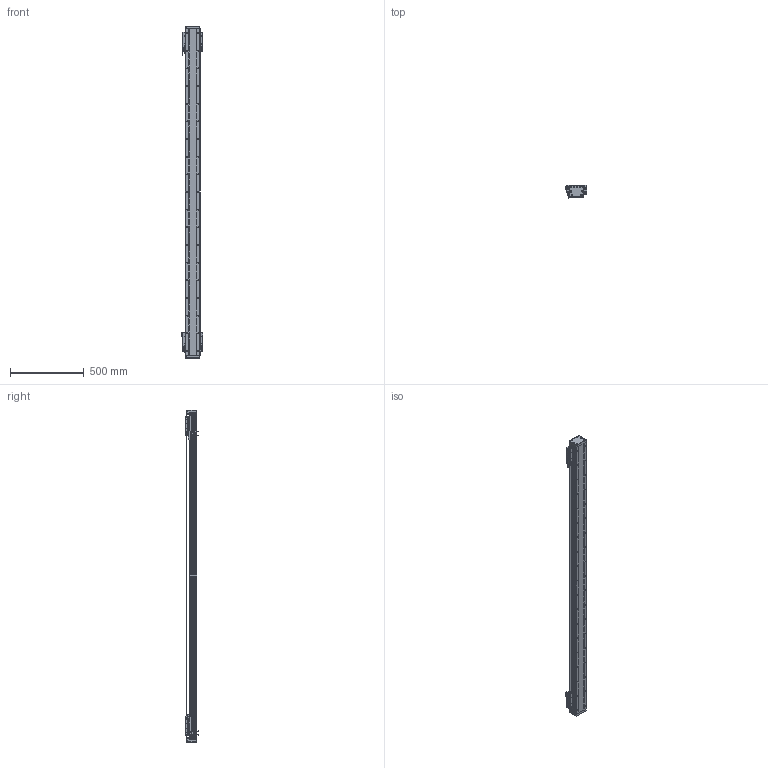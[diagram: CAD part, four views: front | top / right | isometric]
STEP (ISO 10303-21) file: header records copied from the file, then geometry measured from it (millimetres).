
FILE_DESCRIPTION (( 'STEP AP203' ), '1' );
FILE_NAME ('DA-B95-2-B15-T1880-C010-0.2 直线电机.STEP', '2023-05-06T06:34:36', ( '微软用户' ), ( '微软中国' ), 'SwSTEP 2.0', 'SolidWorks 2019', '' );
FILE_SCHEMA (( 'CONFIG_CONTROL_DESIGN' ));
Length unit declared in the file: millimetre
Products named in the file (34): 66245-BU95-V 幗紩賑怢; 复件 DA95-B15 钢带盖板^DA-A95-B15-T-C010-0.2-N 直线电机; 葩璃 DA95-B15-DP-A-00 菜えA^66245-BU95-V 幗紩賑怢; 复件 DKW-HXJ-JY-00 缓冲橡胶^DA-A95-B15-T-C010-0.2-N 直线电机; 复件 纯铜油杯 6x6mm^66245-BU95-V 滚珠滑台; DA95-HXJ-00 缓冲橡胶^DA-A95-B15-T-C010-0.2-N 直线电机; 葩璃 DA95-GT-T-00^IU-BU95-L 菁釱絳寢_DA95; DA-B95-2-B15-T1880-C010-0.2 眻盄萇儂; IU-BU95-L-00 菁釱_L2220; 复件 DA95-MFP-01 密封片^66245-BU95-V 滚珠滑台; IU-BU95-L 菁釱絳寢; LMDK-2-R001-V5-L02-C1-F00，0.2M 读数头^DA-A95-B15-T-C010-0.2-N 直线电机_DMA-010-0.2; DA-A95-GYP-00 光电感应片^DA-A95-B15-T-C010-0.2-N 直线电机; 复件 DA95-HK-GT-00 滑块钢轨^66245-BU95-V-00 一体化滑动台板; 复件 DA95-B15-YB-A-00 压板A^66245-BU95-V 滚珠滑台; 复件 复件 18252-0001-003-00 钢带拉块^DA-A95-B15-T-C010-0.2-N 直线电机; 复件 DKW-KGZ-ZJ-00 中间光电开关支架^DA-A95-B15-T-C010-0.2-N 直线电机; 复件 复件 18252-0001-002-00 钢带垫块^DA-A95-B15-T-C010-0.2-N 直线电机; PM-T45 光电开关^DA-A95-B15-T-C010-0.2-N 直线电机; 66245-BU95-V-00 珨极趙賑雄怢啣; 复件 DA95-DK-00 挡块^66245-BU95-V 滚珠滑台; 复件 六角薄螺母 M3^DA-A95-B15-T-C010-0.2-N 直线电机_GB_FASTENER_NUT_STNAB M3-C; B15 XD-U-02L ｴﾅﾕ､ｳﾟ^DA-A95-B15-T-C010-0.2-N ﾖｱﾏﾟｵ扈銈XD-U-02L; 葩璃 PM-Y45^DA-A95-B15-T-C010-0.2-N 眻盄萇儂; 复件 DA95-DB-00  挡板^66245-BU95-V 滚珠滑台; 复件 复件 18252-0001-004-00 钢带端盖^DA-A95-B15-T-C010-0.2-N 直线电机; 葩璃 DA95-B15-DP--B-00 菜えB^66245-BU95-V 幗紩賑怢; 复件 DKW-GYP-ZJ-00 中间光电感应片^DA-A95-B15-T-C010-0.2-N 直线电机; 葩璃 BKM015-W060-C1-TP-DA-0.2^DA-A95-B15-T-C010-0.2-N 眻盄萇儂; 葩璃 BKMA01-W060-TRL^DA-A95-B15-T-C010-0.2-N 眻盄萇儂; 复件 66245-BU95-HT-V-01 滑动台板^66245-BU95-V-00 一体化滑动台板; 复件 DA95-B15-YB-B-00 压板B^66245-BU95-V 滚珠滑台
Assembly tree (80 placements, depth 4):
  DA-B95-2-B15-T1880-C010-0.2 眻盄萇儂
    IU-BU95-L 菁釱絳寢
      IU-BU95-L-00 菁釱_L2220
      葩璃 DA95-GT-T-00^IU-BU95-L 菁釱絳寢_DA95  x2
    66245-BU95-V 幗紩賑怢
      66245-BU95-V-00 珨极趙賑雄怢啣
        复件 66245-BU95-HT-V-01 滑动台板^66245-BU95-V-00 一体化滑动台板
        复件 DA95-HK-GT-00 滑块钢轨^66245-BU95-V-00 一体化滑动台板  x2
      葩璃 DA95-B15-DP-A-00 菜えA^66245-BU95-V 幗紩賑怢
      复件 DA95-B15-YB-A-00 压板A^66245-BU95-V 滚珠滑台
      复件 DA95-B15-YB-B-00 压板B^66245-BU95-V 滚珠滑台
      复件 DA95-DB-00  挡板^66245-BU95-V 滚珠滑台  x4
      复件 DA95-DK-00 挡块^66245-BU95-V 滚珠滑台  x2
      复件 DA95-MFP-01 密封片^66245-BU95-V 滚珠滑台  x4
      复件 纯铜油杯 6x6mm^66245-BU95-V 滚珠滑台  x2
      葩璃 DA95-B15-DP--B-00 菜えB^66245-BU95-V 幗紩賑怢
    66245-BU95-V 幗紩賑怢
      66245-BU95-V-00 珨极趙賑雄怢啣
        复件 66245-BU95-HT-V-01 滑动台板^66245-BU95-V-00 一体化滑动台板
        复件 DA95-HK-GT-00 滑块钢轨^66245-BU95-V-00 一体化滑动台板  x2
      葩璃 DA95-B15-DP-A-00 菜えA^66245-BU95-V 幗紩賑怢
      复件 DA95-B15-YB-A-00 压板A^66245-BU95-V 滚珠滑台
      复件 DA95-B15-YB-B-00 压板B^66245-BU95-V 滚珠滑台
      复件 DA95-DB-00  挡板^66245-BU95-V 滚珠滑台  x4
      复件 DA95-DK-00 挡块^66245-BU95-V 滚珠滑台  x2
      复件 DA95-MFP-01 密封片^66245-BU95-V 滚珠滑台  x4
      复件 纯铜油杯 6x6mm^66245-BU95-V 滚珠滑台  x2
      葩璃 DA95-B15-DP--B-00 菜えB^66245-BU95-V 幗紩賑怢
    DA-A95-GYP-00 光电感应片^DA-A95-B15-T-C010-0.2-N 直线电机  x2
    LMDK-2-R001-V5-L02-C1-F00，0.2M 读数头^DA-A95-B15-T-C010-0.2-N 直线电机_DMA-010-0.2  x2
    复件 DKW-KGZ-ZJ-00 中间光电开关支架^DA-A95-B15-T-C010-0.2-N 直线电机
    葩璃 PM-Y45^DA-A95-B15-T-C010-0.2-N 眻盄萇儂
    复件 DKW-GYP-ZJ-00 中间光电感应片^DA-A95-B15-T-C010-0.2-N 直线电机
    葩璃 BKM015-W060-C1-TP-DA-0.2^DA-A95-B15-T-C010-0.2-N 眻盄萇儂  x2
    复件 DKW-HXJ-JY-00 缓冲橡胶^DA-A95-B15-T-C010-0.2-N 直线电机  x2
    PM-T45 光电开关^DA-A95-B15-T-C010-0.2-N 直线电机  x4
    B15 XD-U-02L ｴﾅﾕ､ｳﾟ^DA-A95-B15-T-C010-0.2-N ﾖｱﾏﾟｵ扈銈XD-U-02L
    复件 复件 18252-0001-003-00 钢带拉块^DA-A95-B15-T-C010-0.2-N 直线电机  x2
    复件 复件 18252-0001-002-00 钢带垫块^DA-A95-B15-T-C010-0.2-N 直线电机  x2
    复件 复件 18252-0001-004-00 钢带端盖^DA-A95-B15-T-C010-0.2-N 直线电机  x2
    复件 DA95-B15 钢带盖板^DA-A95-B15-T-C010-0.2-N 直线电机
    DA95-HXJ-00 缓冲橡胶^DA-A95-B15-T-C010-0.2-N 直线电机  x4
    葩璃 BKMA01-W060-TRL^DA-A95-B15-T-C010-0.2-N 眻盄萇儂
    复件 六角薄螺母 M3^DA-A95-B15-T-C010-0.2-N 直线电机_GB_FASTENER_NUT_STNAB M3-C  x6
Bounding box: 145.4 x 90.2 x 2256 mm (x, y, z)
Volume: 7472660.2 mm3; surface area: 2462331.8 mm2
Topology: 75 solids, 93 shells, 4080 faces, 11380 edges, 7199 vertices
Faces by surface type: cylinder 2061, plane 1487, cone 464, torus 64, sphere 4
Entity records: 95568 total; most frequent: CARTESIAN_POINT 24514, ORIENTED_EDGE 14118, DIRECTION 13772, EDGE_CURVE 7059, AXIS2_PLACEMENT_3D 5225, VERTEX_POINT 4601, VECTOR 3322, LINE 3322
